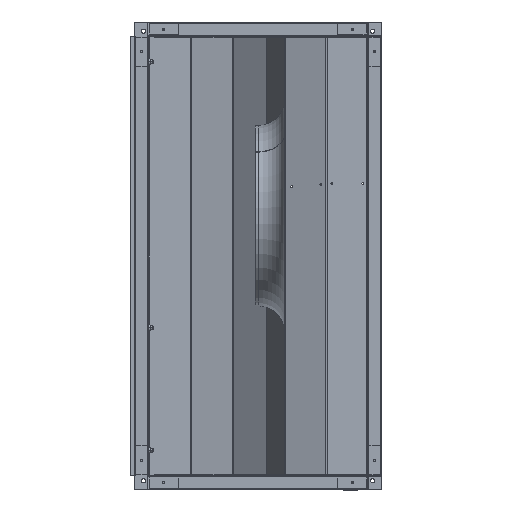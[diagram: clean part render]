
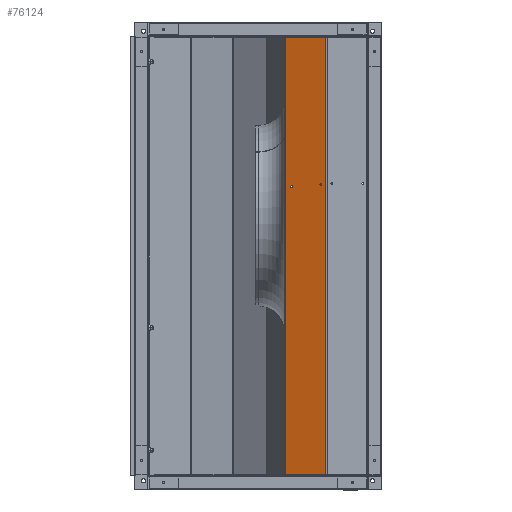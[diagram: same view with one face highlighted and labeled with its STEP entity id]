
A CAD part, left-side view. The second image highlights one B-rep face of the part: STEP entity #76124.
In plain terms, the highlighted planar face has unit normal (-0.947, 0.32, 0).
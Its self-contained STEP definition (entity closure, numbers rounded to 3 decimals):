
#781 = EDGE_LOOP ( 'NONE', ( #62134, #26305, #26307, #26513, #25899, #26309 ) ) ;
#965 = EDGE_LOOP ( 'NONE', ( #26343, #26325 ) ) ;
#990 = EDGE_LOOP ( 'NONE', ( #26331, #26323 ) ) ;
#20964 = VERTEX_POINT ( 'NONE', #43516 ) ;
#20990 = VERTEX_POINT ( 'NONE', #43653 ) ;
#21004 = VERTEX_POINT ( 'NONE', #43344 ) ;
#21022 = VERTEX_POINT ( 'NONE', #43894 ) ;
#21035 = VERTEX_POINT ( 'NONE', #44109 ) ;
#21653 = VERTEX_POINT ( 'NONE', #44046 ) ;
#22893 = VERTEX_POINT ( 'NONE', #99628 ) ;
#22926 = VERTEX_POINT ( 'NONE', #99580 ) ;
#22987 = VERTEX_POINT ( 'NONE', #99517 ) ;
#23259 = VERTEX_POINT ( 'NONE', #99043 ) ;
#25899 = ORIENTED_EDGE ( 'NONE', *, *, #97663, .T. ) ;
#26305 = ORIENTED_EDGE ( 'NONE', *, *, #97735, .T. ) ;
#26307 = ORIENTED_EDGE ( 'NONE', *, *, #97669, .T. ) ;
#26309 = ORIENTED_EDGE ( 'NONE', *, *, #97744, .T. ) ;
#26323 = ORIENTED_EDGE ( 'NONE', *, *, #97939, .T. ) ;
#26325 = ORIENTED_EDGE ( 'NONE', *, *, #97672, .T. ) ;
#26331 = ORIENTED_EDGE ( 'NONE', *, *, #97681, .T. ) ;
#26343 = ORIENTED_EDGE ( 'NONE', *, *, #97675, .T. ) ;
#26513 = ORIENTED_EDGE ( 'NONE', *, *, #97666, .T. ) ;
#43344 = CARTESIAN_POINT ( 'NONE',  ( -374.171, 184.958, 494.674 ) ) ;
#43516 = CARTESIAN_POINT ( 'NONE',  ( -374.171, 184.958, -498.726 ) ) ;
#43653 = CARTESIAN_POINT ( 'NONE',  ( -374.246, 184.737, 494.674 ) ) ;
#43894 = CARTESIAN_POINT ( 'NONE',  ( -379.638, 168.77, 155.423 ) ) ;
#44046 = CARTESIAN_POINT ( 'NONE',  ( -401.971, 102.633, 160.637 ) ) ;
#44109 = CARTESIAN_POINT ( 'NONE',  ( -405.136, 93.261, -498.726 ) ) ;
#62134 = ORIENTED_EDGE ( 'NONE', *, *, #97687, .F. ) ;
#65355 = DIRECTION ( 'NONE',  ( -0.947, 0.32, 0. ) ) ;
#65365 = CARTESIAN_POINT ( 'NONE',  ( -373.534, 186.846, 496.974 ) ) ;
#65370 = PLANE ( 'NONE',  #82028 ) ;
#65374 = DIRECTION ( 'NONE',  ( -0.32, -0.947, 0. ) ) ;
#75573 = CARTESIAN_POINT ( 'NONE',  ( -401.299, 104.623, 160.637 ) ) ;
#75574 = DIRECTION ( 'NONE',  ( 0.947, -0.32, 0. ) ) ;
#75576 = DIRECTION ( 'NONE',  ( 0.32, 0.947, 0. ) ) ;
#76124 = ADVANCED_FACE ( 'NONE', ( #78355, #78358, #78353 ), #65370, .T. ) ;
#78353 = FACE_OUTER_BOUND ( 'NONE', #781, .T. ) ;
#78355 = FACE_BOUND ( 'NONE', #965, .T. ) ;
#78358 = FACE_BOUND ( 'NONE', #990, .T. ) ;
#82028 = AXIS2_PLACEMENT_3D ( 'NONE', #65365, #65355, #65374 ) ;
#82396 = AXIS2_PLACEMENT_3D ( 'NONE', #125778, #125781, #125784 ) ;
#82397 = AXIS2_PLACEMENT_3D ( 'NONE', #125798, #125800, #125803 ) ;
#82401 = AXIS2_PLACEMENT_3D ( 'NONE', #125836, #125838, #125840 ) ;
#82442 = AXIS2_PLACEMENT_3D ( 'NONE', #75573, #75574, #75576 ) ;
#97663 = EDGE_CURVE ( 'NONE', #20964, #22926, #123465, .T. ) ;
#97666 = EDGE_CURVE ( 'NONE', #21004, #20964, #123469, .T. ) ;
#97669 = EDGE_CURVE ( 'NONE', #20990, #21004, #123473, .T. ) ;
#97672 = EDGE_CURVE ( 'NONE', #21022, #22893, #123467, .T. ) ;
#97675 = EDGE_CURVE ( 'NONE', #22893, #21022, #123479, .T. ) ;
#97681 = EDGE_CURVE ( 'NONE', #23259, #21653, #123484, .T. ) ;
#97687 = EDGE_CURVE ( 'NONE', #22987, #21035, #123489, .T. ) ;
#97735 = EDGE_CURVE ( 'NONE', #22987, #20990, #123534, .T. ) ;
#97744 = EDGE_CURVE ( 'NONE', #22926, #21035, #123552, .T. ) ;
#97939 = EDGE_CURVE ( 'NONE', #21653, #23259, #123759, .T. ) ;
#99043 = CARTESIAN_POINT ( 'NONE',  ( -400.627, 106.612, 160.637 ) ) ;
#99517 = CARTESIAN_POINT ( 'NONE',  ( -405.136, 93.261, 494.674 ) ) ;
#99580 = CARTESIAN_POINT ( 'NONE',  ( -374.246, 184.737, -498.726 ) ) ;
#99628 = CARTESIAN_POINT ( 'NONE',  ( -378.294, 172.749, 155.423 ) ) ;
#123465 = LINE ( 'NONE', #125723, #123468 ) ;
#123467 = CIRCLE ( 'NONE', #82396, 2.1 ) ;
#123468 = VECTOR ( 'NONE', #125728, 1000. ) ;
#123469 = LINE ( 'NONE', #125737, #123472 ) ;
#123472 = VECTOR ( 'NONE', #125741, 1000. ) ;
#123473 = LINE ( 'NONE', #125751, #123476 ) ;
#123476 = VECTOR ( 'NONE', #125757, 1000. ) ;
#123479 = CIRCLE ( 'NONE', #82397, 2.1 ) ;
#123484 = CIRCLE ( 'NONE', #82401, 2.1 ) ;
#123489 = LINE ( 'NONE', #125866, #123492 ) ;
#123492 = VECTOR ( 'NONE', #125870, 1000. ) ;
#123534 = LINE ( 'NONE', #126107, #123544 ) ;
#123544 = VECTOR ( 'NONE', #126119, 1000. ) ;
#123552 = LINE ( 'NONE', #126161, #123555 ) ;
#123555 = VECTOR ( 'NONE', #126165, 1000. ) ;
#123759 = CIRCLE ( 'NONE', #82442, 2.1 ) ;
#125723 = CARTESIAN_POINT ( 'NONE',  ( -374.171, 184.958, -498.726 ) ) ;
#125728 = DIRECTION ( 'NONE',  ( -0.32, -0.947, 0. ) ) ;
#125737 = CARTESIAN_POINT ( 'NONE',  ( -374.171, 184.958, 496.974 ) ) ;
#125741 = DIRECTION ( 'NONE',  ( 0., 0., -1. ) ) ;
#125751 = CARTESIAN_POINT ( 'NONE',  ( -374.246, 184.737, 494.674 ) ) ;
#125757 = DIRECTION ( 'NONE',  ( 0.32, 0.947, 0. ) ) ;
#125778 = CARTESIAN_POINT ( 'NONE',  ( -378.966, 170.759, 155.423 ) ) ;
#125781 = DIRECTION ( 'NONE',  ( 0.947, -0.32, 0. ) ) ;
#125784 = DIRECTION ( 'NONE',  ( 0.32, 0.947, 0. ) ) ;
#125798 = CARTESIAN_POINT ( 'NONE',  ( -378.966, 170.759, 155.423 ) ) ;
#125800 = DIRECTION ( 'NONE',  ( 0.947, -0.32, 0. ) ) ;
#125803 = DIRECTION ( 'NONE',  ( 0.32, 0.947, 0. ) ) ;
#125836 = CARTESIAN_POINT ( 'NONE',  ( -401.299, 104.623, 160.637 ) ) ;
#125838 = DIRECTION ( 'NONE',  ( 0.947, -0.32, 0. ) ) ;
#125840 = DIRECTION ( 'NONE',  ( 0.32, 0.947, 0. ) ) ;
#125866 = CARTESIAN_POINT ( 'NONE',  ( -405.136, 93.261, 496.974 ) ) ;
#125870 = DIRECTION ( 'NONE',  ( 0., 0., -1. ) ) ;
#126107 = CARTESIAN_POINT ( 'NONE',  ( -405.136, 93.261, 494.674 ) ) ;
#126119 = DIRECTION ( 'NONE',  ( 0.32, 0.947, 0. ) ) ;
#126161 = CARTESIAN_POINT ( 'NONE',  ( -374.171, 184.958, -498.726 ) ) ;
#126165 = DIRECTION ( 'NONE',  ( -0.32, -0.947, 0. ) ) ;
